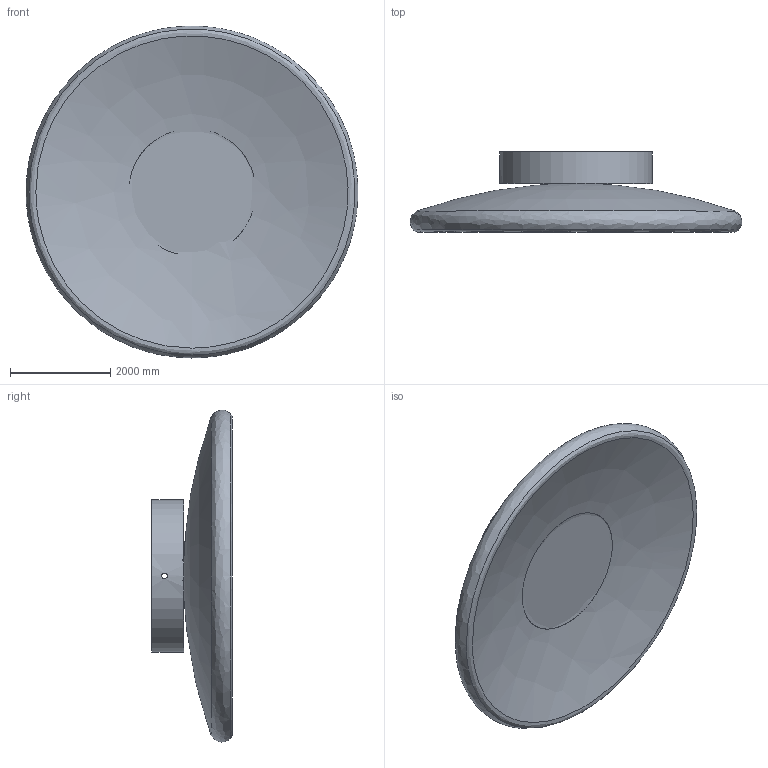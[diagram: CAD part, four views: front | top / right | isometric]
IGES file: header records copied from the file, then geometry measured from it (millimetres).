
Global section: file name: Jenny Ceiling Light; native system: AutoCAD 2022 - 简体中文 (Simplified Chinese),62HAuto; preprocessor: desk Translation Framework DWG producer (atf_dwg_producer); organization: unknown; date: 20260326.153022; units: inch
Bounding box: 6624.07 x 1604.6 x 6624.39 mm (x, y, z)
Volume: 19363499755.6 mm3; surface area: 117851524.8 mm2
Topology: 3 solids, 3 shells, 13 faces, 32 edges, 23 vertices
Faces by surface type: bspline 13
